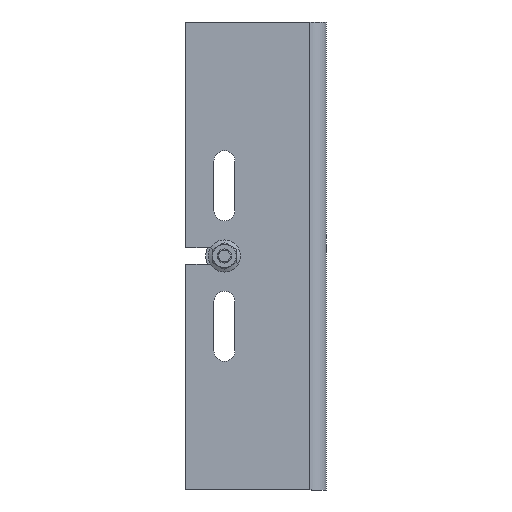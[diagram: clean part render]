
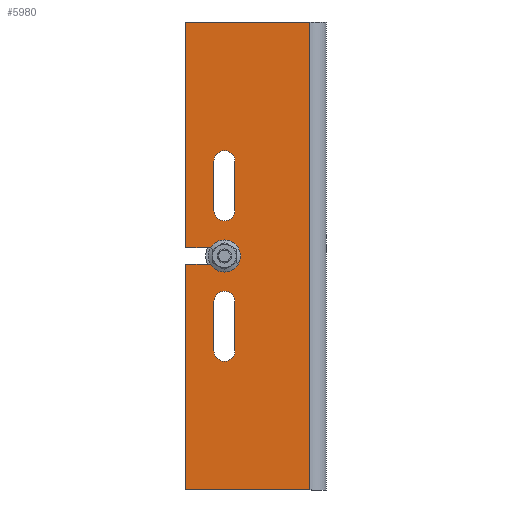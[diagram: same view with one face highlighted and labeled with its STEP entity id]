
A CAD part, front view. The second image highlights one B-rep face of the part: STEP entity #5980.
In plain terms, the highlighted planar face has unit normal (0, -1, 0) as drawn and (0, -1, 0.017) by its records, which use the part's own axes.
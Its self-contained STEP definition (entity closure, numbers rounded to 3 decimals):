
#1950=CARTESIAN_POINT('',(103.5,-23.145,22.441));
#1960=VERTEX_POINT('',#1950);
#1990=CARTESIAN_POINT('',(100.,-23.145,22.441));
#2000=DIRECTION('',(0.,-1.,
0.017));
#2010=DIRECTION('',(0.,0.017,
1.));
#2020=AXIS2_PLACEMENT_3D('',#1990,#2000,#2010);
#2030=CIRCLE('',#2020,3.5);
#2040=CARTESIAN_POINT('',(96.5,-23.145,
22.441));
#2050=VERTEX_POINT('',#2040);
#2060=EDGE_CURVE('',#2050,#1960,#2030,.T.);
#2240=CARTESIAN_POINT('',(96.5,-23.54,
-0.207));
#2250=DIRECTION('',(0.,-0.017,
-1.));
#2260=VECTOR('',#2250,1.);
#2270=LINE('',#2240,#2260);
#2280=CARTESIAN_POINT('',(96.5,-22.857,
38.939));
#2290=VERTEX_POINT('',#2280);
#2300=EDGE_CURVE('',#2290,#2050,#2270,.T.);
#2480=CARTESIAN_POINT('',(0.,-22.857,
38.939));
#2490=DIRECTION('',(1.,0.,0.));
#2500=VECTOR('',#2490,1.);
#2510=LINE('',#2480,#2500);
#2520=CARTESIAN_POINT('',(0.,-22.857,
38.939));
#2530=VERTEX_POINT('',#2520);
#2540=EDGE_CURVE('',#2530,#2290,#2510,.T.);
#3050=CARTESIAN_POINT('',(0.,-23.76,
-12.802));
#3060=DIRECTION('',(0.,-0.017,
-1.));
#3070=VECTOR('',#3060,1.);
#3080=LINE('',#3050,#3070);
#3090=CARTESIAN_POINT('',(0.,-23.782,
-14.05));
#3100=VERTEX_POINT('',#3090);
#3110=EDGE_CURVE('',#2530,#3100,#3080,.T.);
#3580=CARTESIAN_POINT('',(103.5,-22.857,38.939));
#3590=VERTEX_POINT('',#3580);
#3620=CARTESIAN_POINT('',(103.5,-23.54,-0.207));
#3630=DIRECTION('',(0.,0.017,
1.));
#3640=VECTOR('',#3630,1.);
#3650=LINE('',#3620,#3640);
#3660=EDGE_CURVE('',#1960,#3590,#3650,.T.);
#4070=CARTESIAN_POINT('',(200.,-22.857,38.939));
#4080=VERTEX_POINT('',#4070);
#4110=CARTESIAN_POINT('',(0.,-22.857,
38.939));
#4120=DIRECTION('',(1.,0.,0.));
#4130=VECTOR('',#4120,1.);
#4140=LINE('',#4110,#4130);
#4150=EDGE_CURVE('',#3590,#4080,#4140,.T.);
#4930=CARTESIAN_POINT('',(200.,-23.782,-14.05));
#4940=VERTEX_POINT('',#4930);
#4970=CARTESIAN_POINT('',(200.,-23.76,-12.802));
#4980=DIRECTION('',(0.,-0.017,
-1.));
#4990=VECTOR('',#4980,1.);
#5000=LINE('',#4970,#4990);
#5010=EDGE_CURVE('',#4080,#4940,#5000,.T.);
#5060=CARTESIAN_POINT('',(200.,-23.293,13.942));
#5070=DIRECTION('',(0.,-1.,
0.017));
#5080=DIRECTION('',(0.,0.017,
1.));
#5090=AXIS2_PLACEMENT_3D('',#5060,#5070,#5080);
#5100=PLANE('',#5090);
#5110=CARTESIAN_POINT('',(200.,-23.782,-14.05));
#5120=DIRECTION('',(-1.,0.,0.));
#5130=VECTOR('',#5120,1.);
#5140=LINE('',#5110,#5130);
#5150=EDGE_CURVE('',#4940,#3100,#5140,.T.);
#5160=ORIENTED_EDGE('',*,*,#5150,.F.);
#5170=ORIENTED_EDGE('',*,*,#3110,.T.);
#5180=ORIENTED_EDGE('',*,*,#2540,.F.);
#5190=ORIENTED_EDGE('',*,*,#2300,.F.);
#5200=ORIENTED_EDGE('',*,*,#2060,.F.);
#5210=ORIENTED_EDGE('',*,*,#3660,.F.);
#5220=ORIENTED_EDGE('',*,*,#4150,.F.);
#5230=ORIENTED_EDGE('',*,*,#5010,.F.);
#5240=EDGE_LOOP('',(#5230,#5220,#5210,#5200,#5190,#5180,#5170,#5160));
#5250=FACE_OUTER_BOUND('',#5240,.T.);
#5260=CARTESIAN_POINT('',(80.5,-23.145,
22.441));
#5270=DIRECTION('',(0.,-1.,
0.017));
#5280=DIRECTION('',(0.,0.017,
1.));
#5290=AXIS2_PLACEMENT_3D('',#5260,#5270,#5280);
#5300=CIRCLE('',#5290,4.5);
#5310=CARTESIAN_POINT('',(80.5,-23.223,
17.942));
#5320=VERTEX_POINT('',#5310);
#5330=CARTESIAN_POINT('',(80.5,-23.066,
26.94));
#5340=VERTEX_POINT('',#5330);
#5350=EDGE_CURVE('',#5320,#5340,#5300,.T.);
#5360=ORIENTED_EDGE('',*,*,#5350,.F.);
#5370=CARTESIAN_POINT('',(0.,-23.066,
26.94));
#5380=DIRECTION('',(-1.,0.,0.));
#5390=VECTOR('',#5380,1.);
#5400=LINE('',#5370,#5390);
#5410=CARTESIAN_POINT('',(59.5,-23.066,
26.94));
#5420=VERTEX_POINT('',#5410);
#5430=EDGE_CURVE('',#5340,#5420,#5400,.T.);
#5440=ORIENTED_EDGE('',*,*,#5430,.F.);
#5450=CARTESIAN_POINT('',(59.5,-23.145,
22.441));
#5460=DIRECTION('',(0.,-1.,
0.017));
#5470=DIRECTION('',(0.,0.017,
1.));
#5480=AXIS2_PLACEMENT_3D('',#5450,#5460,#5470);
#5490=CIRCLE('',#5480,4.5);
#5500=CARTESIAN_POINT('',(59.5,-23.223,
17.942));
#5510=VERTEX_POINT('',#5500);
#5520=EDGE_CURVE('',#5420,#5510,#5490,.T.);
#5530=ORIENTED_EDGE('',*,*,#5520,.F.);
#5540=CARTESIAN_POINT('',(0.,-23.223,
17.942));
#5550=DIRECTION('',(1.,0.,0.));
#5560=VECTOR('',#5550,1.);
#5570=LINE('',#5540,#5560);
#5580=EDGE_CURVE('',#5510,#5320,#5570,.T.);
#5590=ORIENTED_EDGE('',*,*,#5580,.F.);
#5600=EDGE_LOOP('',(#5590,#5530,#5440,#5360));
#5610=FACE_BOUND('',#5600,.T.);
#5620=CARTESIAN_POINT('',(140.5,-23.145,22.441));
#5630=DIRECTION('',(0.,-1.,
0.017));
#5640=DIRECTION('',(0.,0.017,
1.));
#5650=AXIS2_PLACEMENT_3D('',#5620,#5630,#5640);
#5660=CIRCLE('',#5650,4.5);
#5670=CARTESIAN_POINT('',(140.5,-23.223,17.942));
#5680=VERTEX_POINT('',#5670);
#5690=CARTESIAN_POINT('',(140.5,-23.066,26.94));
#5700=VERTEX_POINT('',#5690);
#5710=EDGE_CURVE('',#5680,#5700,#5660,.T.);
#5720=ORIENTED_EDGE('',*,*,#5710,.F.);
#5730=CARTESIAN_POINT('',(0.,-23.066,
26.94));
#5740=DIRECTION('',(-1.,0.,0.));
#5750=VECTOR('',#5740,1.);
#5760=LINE('',#5730,#5750);
#5770=CARTESIAN_POINT('',(119.5,-23.066,26.94));
#5780=VERTEX_POINT('',#5770);
#5790=EDGE_CURVE('',#5700,#5780,#5760,.T.);
#5800=ORIENTED_EDGE('',*,*,#5790,.F.);
#5810=CARTESIAN_POINT('',(119.5,-23.145,22.441));
#5820=DIRECTION('',(0.,-1.,
0.017));
#5830=DIRECTION('',(0.,0.017,
1.));
#5840=AXIS2_PLACEMENT_3D('',#5810,#5820,#5830);
#5850=CIRCLE('',#5840,4.5);
#5860=CARTESIAN_POINT('',(119.5,-23.223,17.942));
#5870=VERTEX_POINT('',#5860);
#5880=EDGE_CURVE('',#5780,#5870,#5850,.T.);
#5890=ORIENTED_EDGE('',*,*,#5880,.F.);
#5900=CARTESIAN_POINT('',(0.,-23.223,
17.942));
#5910=DIRECTION('',(1.,0.,0.));
#5920=VECTOR('',#5910,1.);
#5930=LINE('',#5900,#5920);
#5940=EDGE_CURVE('',#5870,#5680,#5930,.T.);
#5950=ORIENTED_EDGE('',*,*,#5940,.F.);
#5960=EDGE_LOOP('',(#5950,#5890,#5800,#5720));
#5970=FACE_BOUND('',#5960,.T.);
#5980=ADVANCED_FACE('',(#5250,#5610,#5970),#5100,.T.);
